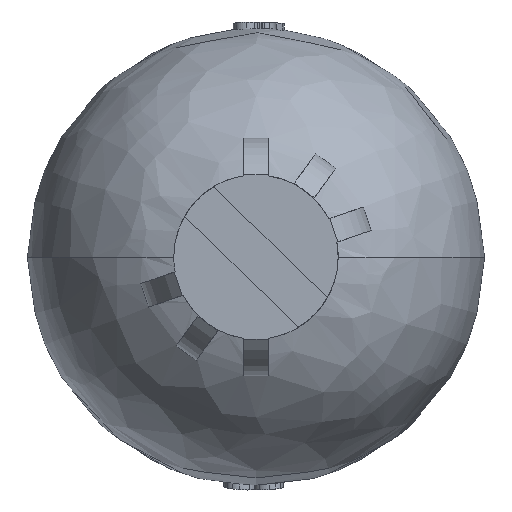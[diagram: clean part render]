
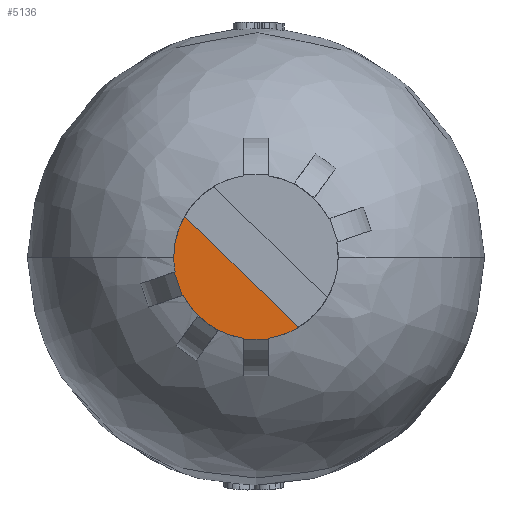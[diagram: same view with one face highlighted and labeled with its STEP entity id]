
A CAD part, left-side view. The second image highlights one B-rep face of the part: STEP entity #5136.
In plain terms, the highlighted planar face has unit normal (-1, 0, 0).
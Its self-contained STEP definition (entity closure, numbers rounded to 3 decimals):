
#4686 = CARTESIAN_POINT ( 'NONE',  ( -27., 4.972, -0.919 ) ) ;
#4690 = CARTESIAN_POINT ( 'NONE',  ( -27., -0.75, -5. ) ) ;
#4697 = CARTESIAN_POINT ( 'NONE',  ( -27., 0.75, -5. ) ) ;
#4700 = CARTESIAN_POINT ( 'NONE',  ( -27., 4.483, -2.337 ) ) ;
#4792 = CARTESIAN_POINT ( 'NONE',  ( -27., 2.939, -4.045 ) ) ;
#4794 = CARTESIAN_POINT ( 'NONE',  ( -27., 0.75, -4.943 ) ) ;
#4796 = CARTESIAN_POINT ( 'NONE',  ( -27., 4.43, -2.319 ) ) ;
#4802 = CARTESIAN_POINT ( 'NONE',  ( -27., -2.582, -4.282 ) ) ;
#4803 = CARTESIAN_POINT ( 'NONE',  ( -27., -0.75, -4.943 ) ) ;
#4808 = CARTESIAN_POINT ( 'NONE',  ( -27., 4.339, 2.484 ) ) ;
#5060 = EDGE_CURVE ( 'NONE', #8353, #8346, #8744, .T. ) ;
#5119 = EDGE_CURVE ( 'NONE', #8342, #8356, #8749, .T. ) ;
#5136 = ADVANCED_FACE ( 'NONE', ( #8813 ), #13307, .T. ) ;
#5163 = EDGE_CURVE ( 'NONE', #6431, #6432, #10674, .T. ) ;
#5260 = EDGE_CURVE ( 'NONE', #8450, #8448, #11153, .T. ) ;
#5263 = EDGE_CURVE ( 'NONE', #8448, #8452, #6174, .T. ) ;
#5274 = EDGE_CURVE ( 'NONE', #8458, #8459, #11158, .T. ) ;
#5280 = EDGE_CURVE ( 'NONE', #8353, #8450, #8862, .T. ) ;
#5281 = EDGE_CURVE ( 'NONE', #8346, #8459, #8863, .T. ) ;
#5282 = EDGE_CURVE ( 'NONE', #8458, #8464, #8864, .T. ) ;
#5283 = EDGE_CURVE ( 'NONE', #6432, #8464, #6206, .T. ) ;
#5284 = EDGE_CURVE ( 'NONE', #8342, #6431, #8865, .T. ) ;
#5285 = EDGE_CURVE ( 'NONE', #8356, #8452, #8866, .T. ) ;
#5355 = EDGE_LOOP ( 'NONE', ( #6346, #6348, #6347, #6349, #6350, #6351, #6353, #6352, #6354, #6355, #6356, #6358 ) ) ;
#6172 = AXIS2_PLACEMENT_3D ( 'NONE', #9485, #9486, #9487 ) ;
#6173 = AXIS2_PLACEMENT_3D ( 'NONE', #9494, #9495, #9496 ) ;
#6174 = CIRCLE ( 'NONE', #6173, 5. ) ;
#6206 = CIRCLE ( 'NONE', #10112, 5. ) ;
#6346 = ORIENTED_EDGE ( 'NONE', *, *, #5260, .F. ) ;
#6347 = ORIENTED_EDGE ( 'NONE', *, *, #5060, .T. ) ;
#6348 = ORIENTED_EDGE ( 'NONE', *, *, #5280, .F. ) ;
#6349 = ORIENTED_EDGE ( 'NONE', *, *, #5281, .T. ) ;
#6350 = ORIENTED_EDGE ( 'NONE', *, *, #5274, .F. ) ;
#6351 = ORIENTED_EDGE ( 'NONE', *, *, #5282, .T. ) ;
#6352 = ORIENTED_EDGE ( 'NONE', *, *, #5163, .F. ) ;
#6353 = ORIENTED_EDGE ( 'NONE', *, *, #5283, .F. ) ;
#6354 = ORIENTED_EDGE ( 'NONE', *, *, #5284, .F. ) ;
#6355 = ORIENTED_EDGE ( 'NONE', *, *, #5119, .T. ) ;
#6356 = ORIENTED_EDGE ( 'NONE', *, *, #5285, .T. ) ;
#6358 = ORIENTED_EDGE ( 'NONE', *, *, #5263, .F. ) ;
#6431 = VERTEX_POINT ( 'NONE', #9647 ) ;
#6432 = VERTEX_POINT ( 'NONE', #9648 ) ;
#8342 = VERTEX_POINT ( 'NONE', #4686 ) ;
#8346 = VERTEX_POINT ( 'NONE', #4690 ) ;
#8353 = VERTEX_POINT ( 'NONE', #4697 ) ;
#8356 = VERTEX_POINT ( 'NONE', #4700 ) ;
#8448 = VERTEX_POINT ( 'NONE', #4792 ) ;
#8450 = VERTEX_POINT ( 'NONE', #4794 ) ;
#8452 = VERTEX_POINT ( 'NONE', #4796 ) ;
#8458 = VERTEX_POINT ( 'NONE', #4802 ) ;
#8459 = VERTEX_POINT ( 'NONE', #4803 ) ;
#8464 = VERTEX_POINT ( 'NONE', #4808 ) ;
#8744 = LINE ( 'NONE', #12733, #10773 ) ;
#8749 = LINE ( 'NONE', #13118, #10799 ) ;
#8813 = FACE_OUTER_BOUND ( 'NONE', #5355, .T. ) ;
#8862 = LINE ( 'NONE', #9538, #10108 ) ;
#8863 = LINE ( 'NONE', #9540, #10109 ) ;
#8864 = LINE ( 'NONE', #9542, #10111 ) ;
#8865 = LINE ( 'NONE', #9547, #10113 ) ;
#8866 = LINE ( 'NONE', #9549, #10114 ) ;
#9004 = CARTESIAN_POINT ( 'NONE',  ( -27., 0., 0. ) ) ;
#9005 = DIRECTION ( 'NONE',  ( 1., 0., 0. ) ) ;
#9006 = DIRECTION ( 'NONE',  ( 0., 1., 0. ) ) ;
#9485 = CARTESIAN_POINT ( 'NONE',  ( -27., 0., 0. ) ) ;
#9486 = DIRECTION ( 'NONE',  ( 1., 0., 0. ) ) ;
#9487 = DIRECTION ( 'NONE',  ( 0., 1., 0. ) ) ;
#9494 = CARTESIAN_POINT ( 'NONE',  ( -27., 0., 0. ) ) ;
#9495 = DIRECTION ( 'NONE',  ( 1., 0., 0. ) ) ;
#9496 = DIRECTION ( 'NONE',  ( 0., 1., 0. ) ) ;
#9523 = CARTESIAN_POINT ( 'NONE',  ( -27., 0., 0. ) ) ;
#9524 = DIRECTION ( 'NONE',  ( 1., 0., 0. ) ) ;
#9525 = DIRECTION ( 'NONE',  ( 0., 1., 0. ) ) ;
#9538 = CARTESIAN_POINT ( 'NONE',  ( -27., 0.75, -5. ) ) ;
#9539 = DIRECTION ( 'NONE',  ( 0., 0., 1. ) ) ;
#9540 = CARTESIAN_POINT ( 'NONE',  ( -27., -0.75, -5. ) ) ;
#9541 = DIRECTION ( 'NONE',  ( 0., 0., 1. ) ) ;
#9542 = CARTESIAN_POINT ( 'NONE',  ( -27., 3.435, 1.601 ) ) ;
#9543 = DIRECTION ( 'NONE',  ( 0., 0.715, 0.699 ) ) ;
#9544 = CARTESIAN_POINT ( 'NONE',  ( -27., 0., 0. ) ) ;
#9545 = DIRECTION ( 'NONE',  ( 1., 0., 0. ) ) ;
#9546 = DIRECTION ( 'NONE',  ( 0., 1., 0. ) ) ;
#9547 = CARTESIAN_POINT ( 'NONE',  ( -27., 4.972, -0.919 ) ) ;
#9548 = DIRECTION ( 'NONE',  ( 0., -0.946, 0.326 ) ) ;
#9549 = CARTESIAN_POINT ( 'NONE',  ( -27., 4.483, -2.337 ) ) ;
#9550 = DIRECTION ( 'NONE',  ( 0., -0.946, 0.326 ) ) ;
#9647 = CARTESIAN_POINT ( 'NONE',  ( -27., 4.918, -0.9 ) ) ;
#9648 = CARTESIAN_POINT ( 'NONE',  ( -27., 5., 0. ) ) ;
#10108 = VECTOR ( 'NONE', #9539, 1000. ) ;
#10109 = VECTOR ( 'NONE', #9541, 1000. ) ;
#10111 = VECTOR ( 'NONE', #9543, 1000. ) ;
#10112 = AXIS2_PLACEMENT_3D ( 'NONE', #9544, #9545, #9546 ) ;
#10113 = VECTOR ( 'NONE', #9548, 1000. ) ;
#10114 = VECTOR ( 'NONE', #9550, 1000. ) ;
#10674 = CIRCLE ( 'NONE', #10683, 5. ) ;
#10683 = AXIS2_PLACEMENT_3D ( 'NONE', #9004, #9005, #9006 ) ;
#10691 = AXIS2_PLACEMENT_3D ( 'NONE', #9523, #9524, #9525 ) ;
#10773 = VECTOR ( 'NONE', #12734, 1000. ) ;
#10799 = VECTOR ( 'NONE', #13119, 1000. ) ;
#10860 = AXIS2_PLACEMENT_3D ( 'NONE', #13308, #13309, #13310 ) ;
#11153 = CIRCLE ( 'NONE', #6172, 5. ) ;
#11158 = CIRCLE ( 'NONE', #10691, 5. ) ;
#12733 = CARTESIAN_POINT ( 'NONE',  ( -27., 0.75, -5. ) ) ;
#12734 = DIRECTION ( 'NONE',  ( 0., -1., 0. ) ) ;
#13118 = CARTESIAN_POINT ( 'NONE',  ( -27., 4.972, -0.919 ) ) ;
#13119 = DIRECTION ( 'NONE',  ( 0., -0.326, -0.946 ) ) ;
#13307 = PLANE ( 'NONE',  #10860 ) ;
#13308 = CARTESIAN_POINT ( 'NONE',  ( -27., 5., 0. ) ) ;
#13309 = DIRECTION ( 'NONE',  ( -1., 0., 0. ) ) ;
#13310 = DIRECTION ( 'NONE',  ( 0., -1., 0. ) ) ;
